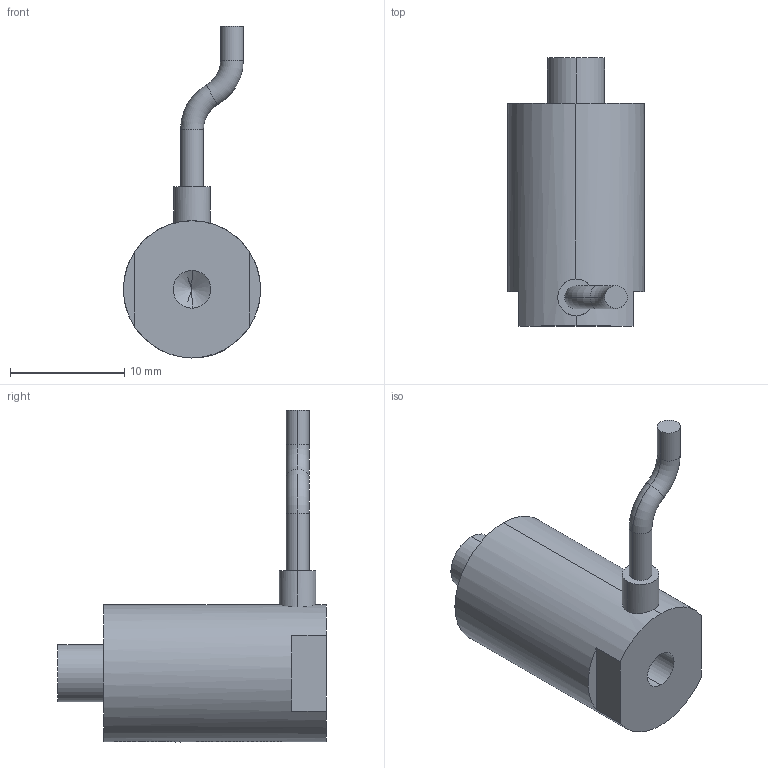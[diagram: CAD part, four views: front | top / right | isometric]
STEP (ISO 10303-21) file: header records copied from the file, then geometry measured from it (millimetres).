
FILE_DESCRIPTION (( 'STEP AP203' ), '1' );
FILE_NAME ('ƽͷʽ7VS12.STEP', '2020-08-19T06:07:13', ( 'User' ), ( 'china' ), 'SwSTEP 2.0', 'SolidWorks 2016', '' );
FILE_SCHEMA (( 'CONFIG_CONTROL_DESIGN' ));
Products named in the file (1): ƽͷʽ7VS12
Bounding box: 12 x 23.5 x 29.08 mm (x, y, z)
Volume: 2274.8 mm3; surface area: 1218 mm2
Topology: 1 solids, 1 shells, 941 faces, 2594 edges, 1725 vertices
Faces by surface type: bspline 509, plane 305, cylinder 121, torus 4, cone 2
Entity records: 43431 total; most frequent: CARTESIAN_POINT 24056, ORIENTED_EDGE 5184, EDGE_CURVE 2592, DIRECTION 2004, B_SPLINE_CURVE_WITH_KNOTS 1736, VERTEX_POINT 1725, EDGE_LOOP 1013, ADVANCED_FACE 941
